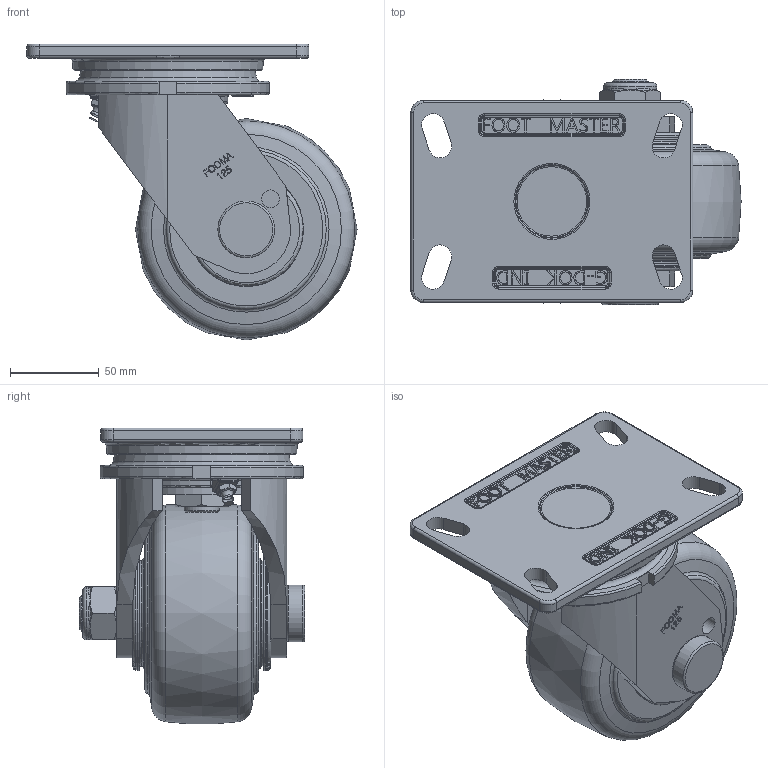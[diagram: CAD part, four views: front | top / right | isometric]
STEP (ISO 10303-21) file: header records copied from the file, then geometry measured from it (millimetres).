
FILE_DESCRIPTION(/* description */ (''),/* implementation_level */ '2;1');
FILE_NAME(/* name */ '\\192.168.10.38\지덕공유\1.기술연구소\손동원\GF-SERIES\3D\GF-125-ASF-MUD.stp',/* time_stamp */ '2023-07-25T14:00:23+09:00',/* author */ ('admin'),/* organization */ (''),/* preprocessor_version */ 'ST-DEVELOPER v18.1',/* originating_system */ 'Autodesk Inventor 2021',/* authorisation */ '');
FILE_SCHEMA (('AUTOMOTIVE_DESIGN { 1 0 10303 214 3 1 1 }'));
Length unit declared in the file: millimetre
Products named in the file (1): GF-125-ASF-MUD
Bounding box: 186.2 x 127 x 166.84 mm (x, y, z)
Volume: 1252765.6 mm3; surface area: 142697.4 mm2
Topology: 1 solids, 1 shells, 1275 faces, 3457 edges, 2206 vertices
Faces by surface type: plane 485, bspline 438, cylinder 193, torus 94, cone 57, sphere 8
Full cylindrical faces by diameter (mm): 6 x1, 10 x2, 20 x4, 20.2 x2, 24.9 x2, 30 x1, 32 x1, 32.334 x2, 39.666 x2, 59 x1, 64.519 x2
Entity records: 44466 total; most frequent: CARTESIAN_POINT 14729, ORIENTED_EDGE 6906, DIRECTION 5079, EDGE_CURVE 3453, VERTEX_POINT 2213, AXIS2_PLACEMENT_3D 1718, LINE 1643, VECTOR 1643
